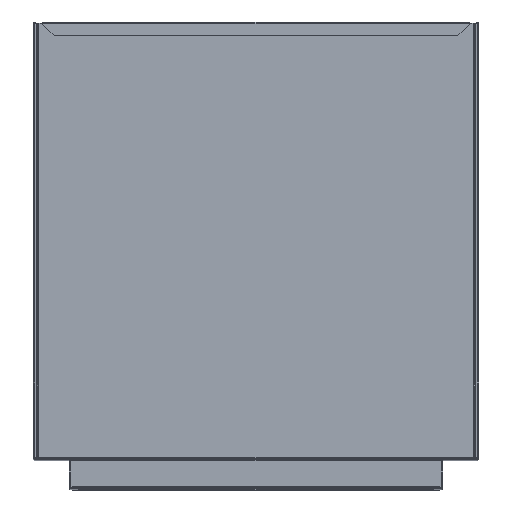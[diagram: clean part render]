
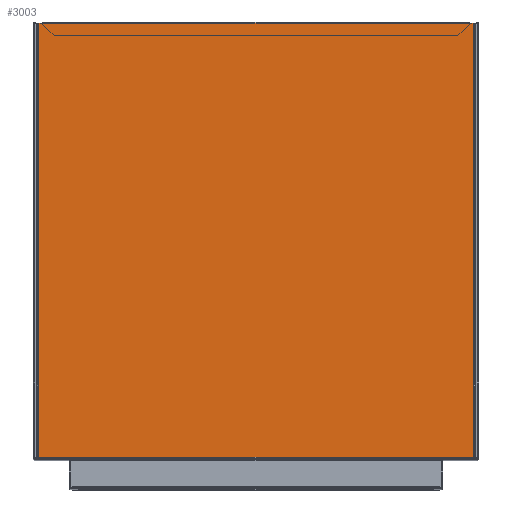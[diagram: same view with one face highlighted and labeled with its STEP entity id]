
A CAD part, top view. The second image highlights one B-rep face of the part: STEP entity #3003.
In plain terms, the highlighted planar face has unit normal (0, 0, 1) as drawn and (0, 0, -1) by its records, which use the part's own axes.
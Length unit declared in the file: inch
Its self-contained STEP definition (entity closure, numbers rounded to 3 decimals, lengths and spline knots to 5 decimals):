
#274=DIRECTION('',(0.,1.,0.));
#275=VECTOR('',#274,12.);
#276=CARTESIAN_POINT('',(-6.0034,0.,-6.1625));
#277=LINE('',#276,#275);
#278=DIRECTION('',(0.,1.,0.));
#279=VECTOR('',#278,12.);
#280=CARTESIAN_POINT('',(6.0034,0.,-6.1625));
#281=LINE('',#280,#279);
#308=DIRECTION('',(1.,0.,0.));
#309=VECTOR('',#308,0.1);
#310=CARTESIAN_POINT('',(5.9034,12.,-6.1625));
#311=LINE('',#310,#309);
#651=DIRECTION('',(1.,0.,0.));
#652=VECTOR('',#651,11.80681);
#653=CARTESIAN_POINT('',(-5.9034,12.,-6.1625));
#654=LINE('',#653,#652);
#744=DIRECTION('',(1.,0.,0.));
#745=VECTOR('',#744,0.1);
#746=CARTESIAN_POINT('',(-6.0034,12.,-6.1625));
#747=LINE('',#746,#745);
#1035=DIRECTION('',(1.,0.,0.));
#1036=VECTOR('',#1035,12.00681);
#1037=CARTESIAN_POINT('',(-6.0034,0.,-6.1625));
#1038=LINE('',#1037,#1036);
#2299=CARTESIAN_POINT('',(-6.0034,0.,-6.1625));
#2300=VERTEX_POINT('',#2299);
#2301=CARTESIAN_POINT('',(6.0034,0.,-6.1625));
#2303=VERTEX_POINT('',#2301);
#2308=CARTESIAN_POINT('',(-6.0034,12.,-6.1625));
#2310=VERTEX_POINT('',#2308);
#2311=CARTESIAN_POINT('',(6.0034,12.,-6.1625));
#2313=VERTEX_POINT('',#2311);
#2411=CARTESIAN_POINT('',(-5.9034,12.,-6.1625));
#2412=VERTEX_POINT('',#2411);
#2413=CARTESIAN_POINT('',(5.9034,12.,-6.1625));
#2414=VERTEX_POINT('',#2413);
#2985=CARTESIAN_POINT('',(-6.0034,0.,-6.1625));
#2986=DIRECTION('',(0.,0.,1.));
#2987=DIRECTION('',(1.,0.,0.));
#2988=AXIS2_PLACEMENT_3D('',#2985,#2986,#2987);
#2989=PLANE('',#2988);
#2991=ORIENTED_EDGE('',*,*,#2990,.T.);
#2993=ORIENTED_EDGE('',*,*,#2992,.F.);
#2995=ORIENTED_EDGE('',*,*,#2994,.F.);
#2997=ORIENTED_EDGE('',*,*,#2996,.F.);
#2998=ORIENTED_EDGE('',*,*,#2978,.F.);
#3000=ORIENTED_EDGE('',*,*,#2999,.T.);
#3001=EDGE_LOOP('',(#2991,#2993,#2995,#2997,#2998,#3000));
#3002=FACE_OUTER_BOUND('',#3001,.F.);
#3003=ADVANCED_FACE('',(#3002),#2989,.F.);
#2978=EDGE_CURVE('',#2300,#2310,#277,.T.);
#2990=EDGE_CURVE('',#2303,#2313,#281,.T.);
#2992=EDGE_CURVE('',#2414,#2313,#311,.T.);
#2994=EDGE_CURVE('',#2412,#2414,#654,.T.);
#2996=EDGE_CURVE('',#2310,#2412,#747,.T.);
#2999=EDGE_CURVE('',#2300,#2303,#1038,.T.);
